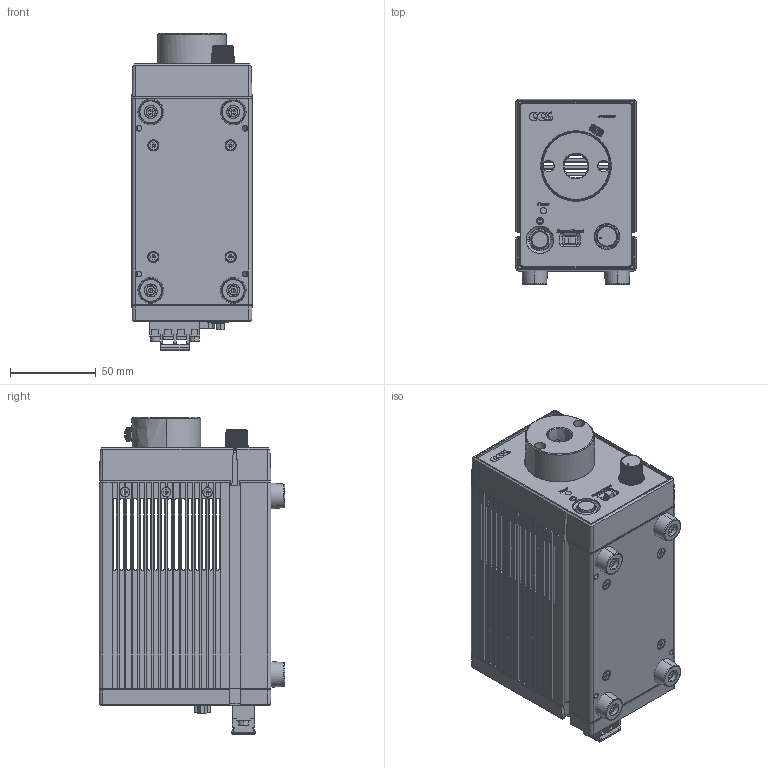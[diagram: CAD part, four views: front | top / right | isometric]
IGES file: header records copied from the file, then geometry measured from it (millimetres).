
Start section: SolidWorks IGES file using NURBS representation for surfaces
Bounding box: 70 x 108 x 184.92 mm (x, y, z)
Surface area: 137657.1 mm2 (no closed solid volume)
Topology: 0 solids, 0 shells, 1746 faces, 22917 edges, 22863 vertices
Faces by surface type: bspline 1746
